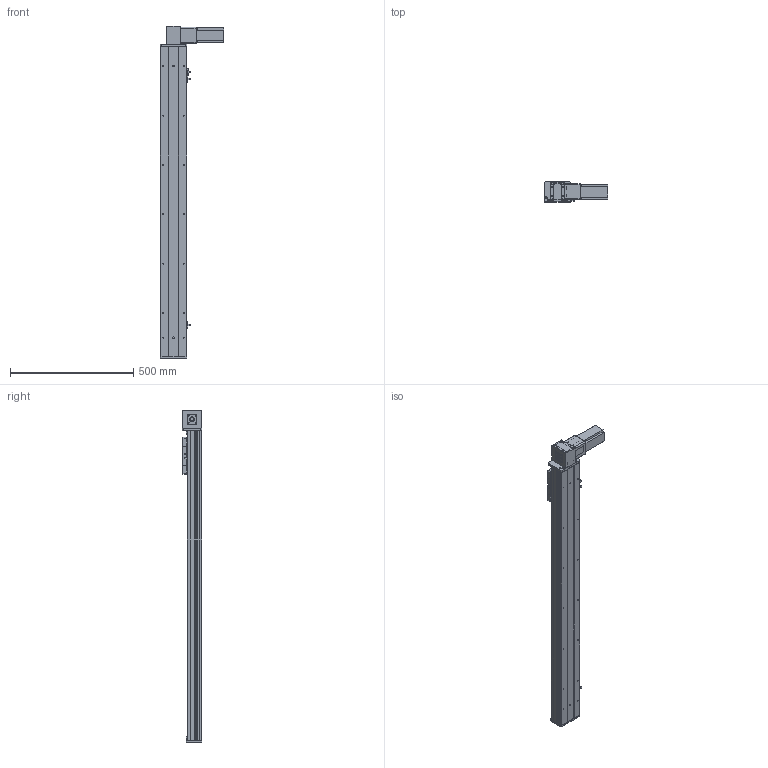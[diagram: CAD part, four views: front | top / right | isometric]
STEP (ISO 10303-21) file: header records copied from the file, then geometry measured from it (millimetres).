
FILE_DESCRIPTION (( 'STEP AP203' ), '1' );
FILE_NAME ('Y10CB-D90-S1000-BM-P400W.STEP', '2020-02-17T02:34:01', ( '微软用户' ), ( '微软中国' ), 'SwSTEP 2.0', 'SolidWorks 2017', '' );
FILE_SCHEMA (( 'CONFIG_CONTROL_DESIGN' ));
Length unit declared in the file: millimetre
Products named in the file (16): 10CB-耜裔; Y10B-々湍喘謫眊楊擘啣--; Y135C-陔俋离換覜結え-; san松下电机400不带刹车----; Y100-135俋离換覜ん--; 0B-源倛裔啣; Y10B--々湍喘謫眊--666; 0B-埴倛裔啣; 0B-薊粣ん眊; 10CB-詩湍-; Y10CB-D90-S1000-BM-P400W; Y10CB- 掛极耜裔啣-毀---; Y10C---詩湍揤啣; 0CB-雄赽釱---; 10CB9-掛极; 0Cb-俋欶---
Assembly tree (19 placements, depth 2):
  Y10CB-D90-S1000-BM-P400W
    0CB-雄赽釱---
    0Cb-俋欶---
    Y10B-々湍喘謫眊楊擘啣--
    san松下电机400不带刹车----
    0B-源倛裔啣
    0B-埴倛裔啣
    10CB-詩湍-
    Y10CB- 掛极耜裔啣-毀---  x2
    Y10C---詩湍揤啣  x2
    10CB9-掛极
    10CB-耜裔
    Y135C-陔俋离換覜結え-
    Y100-135俋离換覜ん--  x3
    Y10B--々湍喘謫眊--666
    0B-薊粣ん眊
Bounding box: 258 x 80.5 x 1346 mm (x, y, z)
Volume: 3136211.3 mm3; surface area: 1367847 mm2
Topology: 19 solids, 19 shells, 900 faces, 2382 edges, 1556 vertices
Faces by surface type: cylinder 440, plane 436, cone 24
Entity records: 27569 total; most frequent: CARTESIAN_POINT 4904, DIRECTION 4457, ORIENTED_EDGE 4234, EDGE_CURVE 2117, AXIS2_PLACEMENT_3D 1599, VERTEX_POINT 1382, LINE 1259, VECTOR 1259
